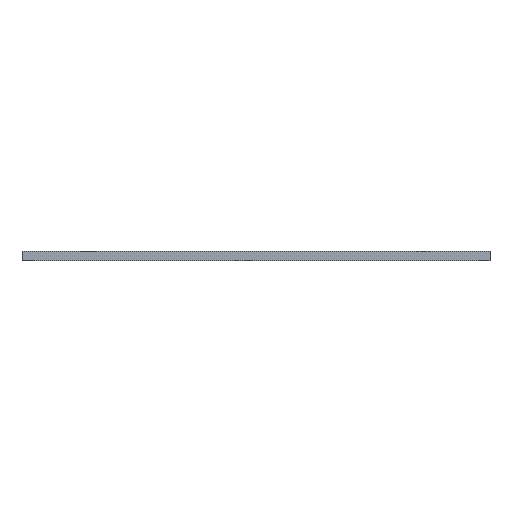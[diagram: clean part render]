
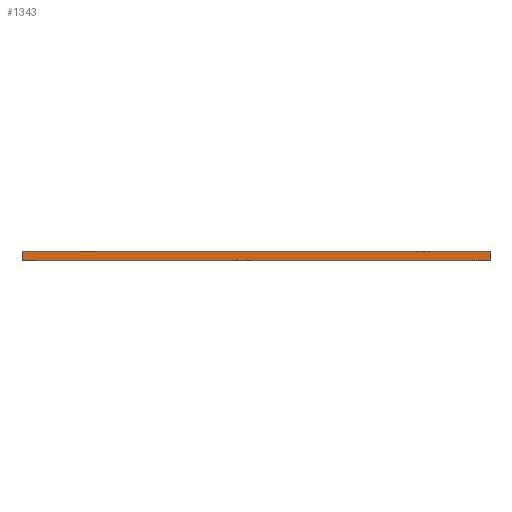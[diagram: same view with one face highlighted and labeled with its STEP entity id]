
A CAD part, front view. The second image highlights one B-rep face of the part: STEP entity #1343.
In plain terms, the highlighted planar face has unit normal (0, -1, 0).
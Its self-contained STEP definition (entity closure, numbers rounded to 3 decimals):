
#2 = LINE ( 'NONE', #836, #18 ) ;
#18 = VECTOR ( 'NONE', #1054, 1000. ) ;
#116 = CARTESIAN_POINT ( 'NONE',  ( -38., -55., 0. ) ) ;
#145 = EDGE_LOOP ( 'NONE', ( #765, #697, #318, #748 ) ) ;
#167 = VERTEX_POINT ( 'NONE', #116 ) ;
#179 = EDGE_CURVE ( 'NONE', #167, #938, #2, .T. ) ;
#260 = DIRECTION ( 'NONE',  ( 0., 0., -1. ) ) ;
#288 = CARTESIAN_POINT ( 'NONE',  ( -38., -55., 1.5 ) ) ;
#318 = ORIENTED_EDGE ( 'NONE', *, *, #950, .F. ) ;
#353 = VERTEX_POINT ( 'NONE', #358 ) ;
#358 = CARTESIAN_POINT ( 'NONE',  ( 38., -55., 1.5 ) ) ;
#428 = EDGE_CURVE ( 'NONE', #353, #938, #1035, .T. ) ;
#429 = EDGE_CURVE ( 'NONE', #1366, #167, #1215, .T. ) ;
#461 = CARTESIAN_POINT ( 'NONE',  ( -38., -55., 1.5 ) ) ;
#476 = DIRECTION ( 'NONE',  ( -1., 0., 0. ) ) ;
#522 = LINE ( 'NONE', #623, #792 ) ;
#580 = CARTESIAN_POINT ( 'NONE',  ( 38., -55., 1.5 ) ) ;
#623 = CARTESIAN_POINT ( 'NONE',  ( 38., -55., 1.5 ) ) ;
#633 = DIRECTION ( 'NONE',  ( 1., 0., 0. ) ) ;
#676 = VECTOR ( 'NONE', #260, 1000. ) ;
#689 = FACE_OUTER_BOUND ( 'NONE', #145, .T. ) ;
#697 = ORIENTED_EDGE ( 'NONE', *, *, #428, .F. ) ;
#705 = CARTESIAN_POINT ( 'NONE',  ( 38., -55., 1.5 ) ) ;
#748 = ORIENTED_EDGE ( 'NONE', *, *, #429, .T. ) ;
#765 = ORIENTED_EDGE ( 'NONE', *, *, #179, .T. ) ;
#792 = VECTOR ( 'NONE', #633, 1000. ) ;
#836 = CARTESIAN_POINT ( 'NONE',  ( 38., -55., 0. ) ) ;
#892 = DIRECTION ( 'NONE',  ( 0., 1., 0. ) ) ;
#938 = VERTEX_POINT ( 'NONE', #951 ) ;
#950 = EDGE_CURVE ( 'NONE', #1366, #353, #522, .T. ) ;
#951 = CARTESIAN_POINT ( 'NONE',  ( 38., -55., 0. ) ) ;
#1035 = LINE ( 'NONE', #705, #1279 ) ;
#1054 = DIRECTION ( 'NONE',  ( 1., 0., 0. ) ) ;
#1061 = AXIS2_PLACEMENT_3D ( 'NONE', #580, #892, #476 ) ;
#1119 = DIRECTION ( 'NONE',  ( 0., 0., -1. ) ) ;
#1209 = PLANE ( 'NONE',  #1061 ) ;
#1215 = LINE ( 'NONE', #288, #676 ) ;
#1279 = VECTOR ( 'NONE', #1119, 1000. ) ;
#1343 = ADVANCED_FACE ( 'NONE', ( #689 ), #1209, .F. ) ;
#1366 = VERTEX_POINT ( 'NONE', #461 ) ;
